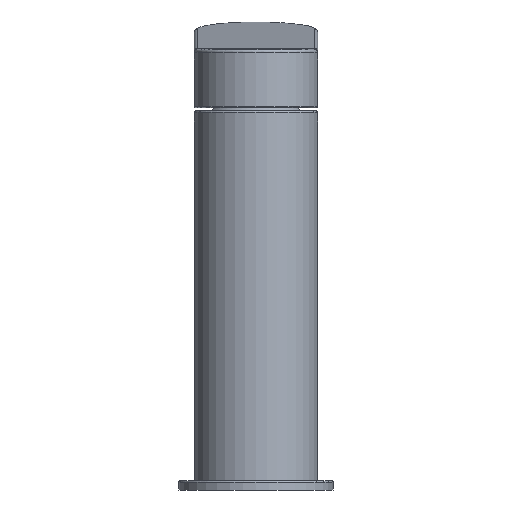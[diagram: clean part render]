
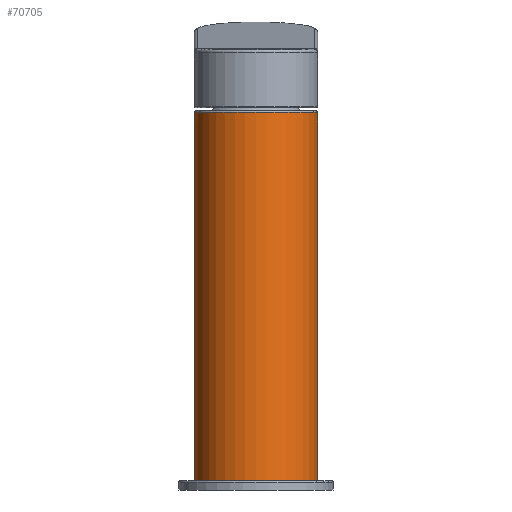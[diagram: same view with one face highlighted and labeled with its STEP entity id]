
A CAD part, front view. The second image highlights one B-rep face of the part: STEP entity #70705.
In plain terms, the highlighted cylindrical face has radius 20 mm (diameter 40 mm), a partial arc.
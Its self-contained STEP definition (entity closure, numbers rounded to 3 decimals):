
#273 = EDGE_CURVE ( 'NONE', #18285, #14150, #3572, .T. ) ;
#331 = CARTESIAN_POINT ( 'NONE',  ( 20., 0., 140. ) ) ;
#335 = CYLINDRICAL_SURFACE ( 'NONE', #22379, 20. ) ;
#3572 = CIRCLE ( 'NONE', #37196, 20. ) ;
#9193 = ORIENTED_EDGE ( 'NONE', *, *, #66870, .F. ) ;
#10267 = DIRECTION ( 'NONE',  ( 0., 0., 1. ) ) ;
#11418 = VERTEX_POINT ( 'NONE', #46051 ) ;
#12306 = VECTOR ( 'NONE', #18651, 1000. ) ;
#13188 = DIRECTION ( 'NONE',  ( 0., 0., -1. ) ) ;
#14000 = LINE ( 'NONE', #67774, #48831 ) ;
#14150 = VERTEX_POINT ( 'NONE', #26368 ) ;
#14161 = EDGE_CURVE ( 'NONE', #35242, #57662, #50986, .T. ) ;
#16092 = CARTESIAN_POINT ( 'NONE',  ( 20., 0., 139.5 ) ) ;
#17364 = VECTOR ( 'NONE', #10267, 1000. ) ;
#18285 = VERTEX_POINT ( 'NONE', #16092 ) ;
#18651 = DIRECTION ( 'NONE',  ( 0., 0., -1. ) ) ;
#19048 = FACE_OUTER_BOUND ( 'NONE', #62039, .T. ) ;
#19334 = ORIENTED_EDGE ( 'NONE', *, *, #40477, .T. ) ;
#21304 = CARTESIAN_POINT ( 'NONE',  ( -20., 0., 140. ) ) ;
#22198 = ORIENTED_EDGE ( 'NONE', *, *, #273, .T. ) ;
#22379 = AXIS2_PLACEMENT_3D ( 'NONE', #66577, #13188, #36961 ) ;
#25279 = DIRECTION ( 'NONE',  ( -1., 0., 0. ) ) ;
#26001 = DIRECTION ( 'NONE',  ( 0., 0., -1. ) ) ;
#26368 = CARTESIAN_POINT ( 'NONE',  ( -20., 0., 139.5 ) ) ;
#26464 = DIRECTION ( 'NONE',  ( 0., 0., -1. ) ) ;
#27797 = CARTESIAN_POINT ( 'NONE',  ( 20., 0., 140. ) ) ;
#30957 = CARTESIAN_POINT ( 'NONE',  ( -20., 0., 20. ) ) ;
#35138 = ORIENTED_EDGE ( 'NONE', *, *, #61989, .T. ) ;
#35242 = VERTEX_POINT ( 'NONE', #30957 ) ;
#36961 = DIRECTION ( 'NONE',  ( -1., 0., 0. ) ) ;
#37196 = AXIS2_PLACEMENT_3D ( 'NONE', #55531, #50070, #66464 ) ;
#38127 = CARTESIAN_POINT ( 'NONE',  ( 0., 0., 20. ) ) ;
#38249 = VECTOR ( 'NONE', #26001, 1000. ) ;
#39083 = CARTESIAN_POINT ( 'NONE',  ( 20., 0., 20. ) ) ;
#40477 = EDGE_CURVE ( 'NONE', #58925, #18285, #63640, .T. ) ;
#42784 = ORIENTED_EDGE ( 'NONE', *, *, #14161, .T. ) ;
#46051 = CARTESIAN_POINT ( 'NONE',  ( -20., 0., 135.717 ) ) ;
#48831 = VECTOR ( 'NONE', #26464, 1000. ) ;
#49768 = LINE ( 'NONE', #21304, #38249 ) ;
#50070 = DIRECTION ( 'NONE',  ( 0., 0., -1. ) ) ;
#50986 = CIRCLE ( 'NONE', #70924, 20. ) ;
#53113 = EDGE_CURVE ( 'NONE', #11418, #35242, #14000, .T. ) ;
#55531 = CARTESIAN_POINT ( 'NONE',  ( 0., 0., 139.5 ) ) ;
#57662 = VERTEX_POINT ( 'NONE', #39083 ) ;
#58792 = LINE ( 'NONE', #331, #12306 ) ;
#58925 = VERTEX_POINT ( 'NONE', #68897 ) ;
#61868 = DIRECTION ( 'NONE',  ( 0., 0., 1. ) ) ;
#61989 = EDGE_CURVE ( 'NONE', #14150, #11418, #49768, .T. ) ;
#62039 = EDGE_LOOP ( 'NONE', ( #9193, #19334, #22198, #35138, #69772, #42784 ) ) ;
#63640 = LINE ( 'NONE', #27797, #17364 ) ;
#66464 = DIRECTION ( 'NONE',  ( -1., 0., 0. ) ) ;
#66577 = CARTESIAN_POINT ( 'NONE',  ( 0., 0., 140. ) ) ;
#66870 = EDGE_CURVE ( 'NONE', #58925, #57662, #58792, .T. ) ;
#67774 = CARTESIAN_POINT ( 'NONE',  ( -20., 0., 140. ) ) ;
#68897 = CARTESIAN_POINT ( 'NONE',  ( 20., 0., 135.717 ) ) ;
#69772 = ORIENTED_EDGE ( 'NONE', *, *, #53113, .T. ) ;
#70705 = ADVANCED_FACE ( 'NONE', ( #19048 ), #335, .T. ) ;
#70924 = AXIS2_PLACEMENT_3D ( 'NONE', #38127, #61868, #25279 ) ;
